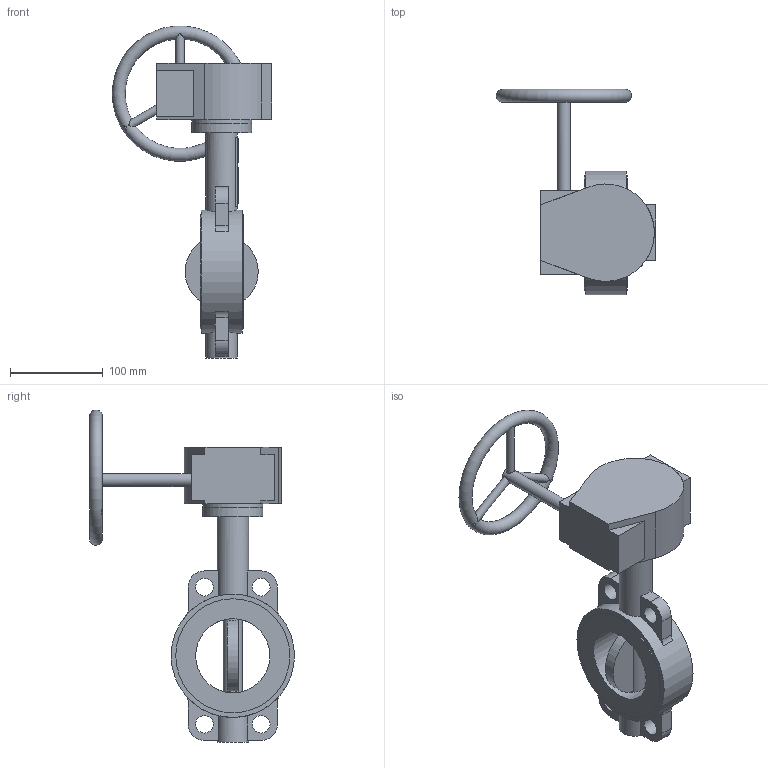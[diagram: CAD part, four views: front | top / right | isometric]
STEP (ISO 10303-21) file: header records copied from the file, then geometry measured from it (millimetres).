
FILE_DESCRIPTION(('STEP AP203'), '1');
FILE_NAME('青蜮铕 017W.ZS DN80 PN10_16 疱潴牝铕', '', ('UNSPECIFIED'), ('UNSPECIFIED'), 'ASCON STEP Converter 1.6', 'ASCON Math Kernel', '');
FILE_SCHEMA(('CONFIG_CONTROL_DESIGN'));
Length unit declared in the file: millimetre
Bounding box: 172 x 221 x 357.98 mm (x, y, z)
Volume: 764347 mm3; surface area: 171484.3 mm2
Topology: 1 solids, 2 shells, 682 faces, 1978 edges, 1274 vertices
Faces by surface type: cylinder 484, plane 197, torus 1
Full cylindrical faces by diameter (mm): 5 x4, 8 x4, 9 x3, 12.6 x1, 14 x1, 19 x4, 21 x1, 34 x2, 35 x1, 65 x2, 80 x1, 123 x2, 133 x1
Entity records: 30405 total; most frequent: CARTESIAN_POINT 6072, DIRECTION 4309, ORIENTED_EDGE 3835, EDGE_CURVE 1949, AXIS2_PLACEMENT_3D 1703, VERTEX_POINT 1273, CIRCLE 1020, LINE 903
